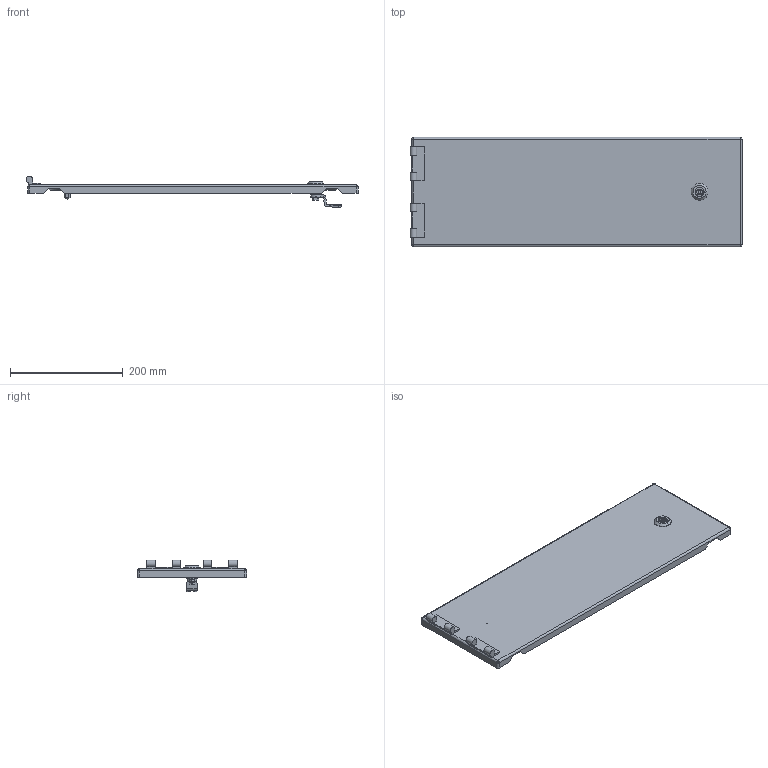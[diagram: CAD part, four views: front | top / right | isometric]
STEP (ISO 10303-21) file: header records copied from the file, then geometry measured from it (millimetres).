
FILE_DESCRIPTION (( 'STEP AP214' ), '1' );
FILE_NAME ('D 20.60 M Äâåðü ñåêöèîííàÿ ãëóõàÿ.STEP', '2016-10-10T06:58:43', ( '' ), ( '' ), 'SwSTEP 2.0', 'SolidWorks 2012', '' );
FILE_SCHEMA (( 'AUTOMOTIVE_DESIGN' ));
Length unit declared in the file: millimetre
Products named in the file (1): D 20.60 M Äâåðü ñåêöèîííàÿ ãëóõàÿ
Bounding box: 588.2 x 194 x 56.33 mm (x, y, z)
Volume: 424728.5 mm3; surface area: 333718.2 mm2
Topology: 7 solids, 7 shells, 342 faces, 867 edges, 544 vertices
Faces by surface type: plane 159, cylinder 115, cone 36, torus 13, bspline 11, sphere 8
Entity records: 10998 total; most frequent: CARTESIAN_POINT 2510, DIRECTION 1737, ORIENTED_EDGE 1718, EDGE_CURVE 859, AXIS2_PLACEMENT_3D 627, VERTEX_POINT 544, LINE 483, VECTOR 483
